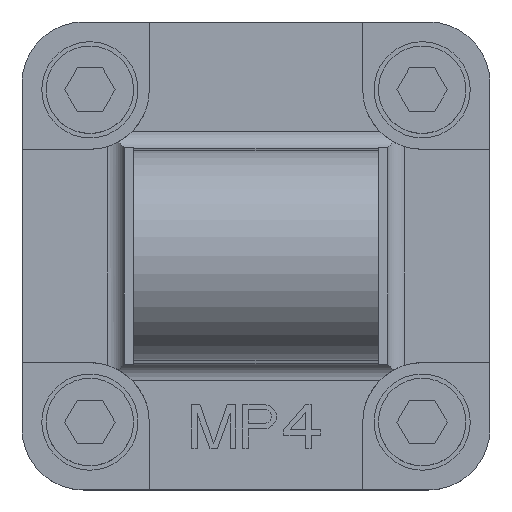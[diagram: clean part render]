
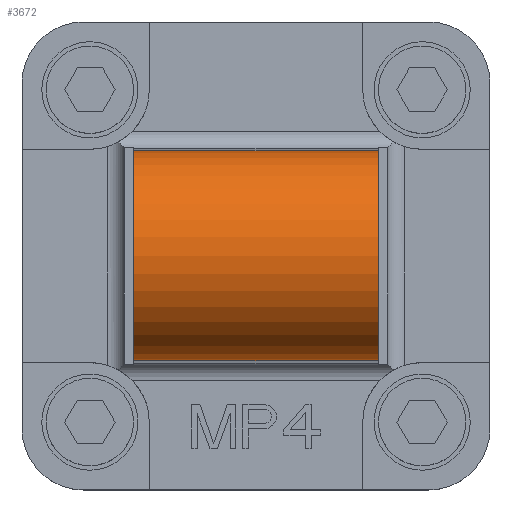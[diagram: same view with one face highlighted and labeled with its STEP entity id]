
A CAD part, top view. The second image highlights one B-rep face of the part: STEP entity #3672.
In plain terms, the highlighted cylindrical face has radius 12 mm (diameter 24 mm), a partial arc.
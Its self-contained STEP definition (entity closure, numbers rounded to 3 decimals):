
#746=CARTESIAN_POINT('',(14.,0.,25.));
#747=DIRECTION('',(1.,0.,0.));
#748=DIRECTION('',(0.,1.,0.017));
#749=AXIS2_PLACEMENT_3D('',#746,#747,#748);
#751=CARTESIAN_POINT('',(-14.,0.,25.));
#752=DIRECTION('',(-1.,0.,0.));
#753=DIRECTION('',(0.,-1.,0.017));
#754=AXIS2_PLACEMENT_3D('',#751,#752,#753);
#756=DIRECTION('',(-1.,0.,0.));
#757=VECTOR('',#756,28.);
#758=CARTESIAN_POINT('',(14.,11.998,25.209));
#759=LINE('',#758,#757);
#850=DIRECTION('',(-1.,0.,0.));
#851=VECTOR('',#850,28.);
#852=CARTESIAN_POINT('',(14.,-11.998,25.209));
#853=LINE('',#852,#851);
#2422=CARTESIAN_POINT('',(14.,11.998,25.209));
#2423=CARTESIAN_POINT('',(14.,-11.998,25.209));
#2424=VERTEX_POINT('',#2422);
#2425=VERTEX_POINT('',#2423);
#2426=CARTESIAN_POINT('',(-14.,-11.998,25.209));
#2427=CARTESIAN_POINT('',(-14.,11.998,25.209));
#2428=VERTEX_POINT('',#2426);
#2429=VERTEX_POINT('',#2427);
#3658=CARTESIAN_POINT('',(26.75,0.,25.));
#3659=DIRECTION('',(1.,0.,0.));
#3660=DIRECTION('',(0.,0.,-1.));
#3661=AXIS2_PLACEMENT_3D('',#3658,#3659,#3660);
#3662=CYLINDRICAL_SURFACE('',#3661,12.);
#3664=ORIENTED_EDGE('',*,*,#3663,.T.);
#3666=ORIENTED_EDGE('',*,*,#3665,.T.);
#3667=ORIENTED_EDGE('',*,*,#3632,.T.);
#3669=ORIENTED_EDGE('',*,*,#3668,.F.);
#3670=EDGE_LOOP('',(#3664,#3666,#3667,#3669));
#3671=FACE_OUTER_BOUND('',#3670,.F.);
#3672=ADVANCED_FACE('',(#3671),#3662,.T.);
#750=CIRCLE('',#749,12.);
#755=CIRCLE('',#754,12.);
#3632=EDGE_CURVE('',#2428,#2429,#755,.T.);
#3663=EDGE_CURVE('',#2424,#2425,#750,.T.);
#3665=EDGE_CURVE('',#2425,#2428,#853,.T.);
#3668=EDGE_CURVE('',#2424,#2429,#759,.T.);
